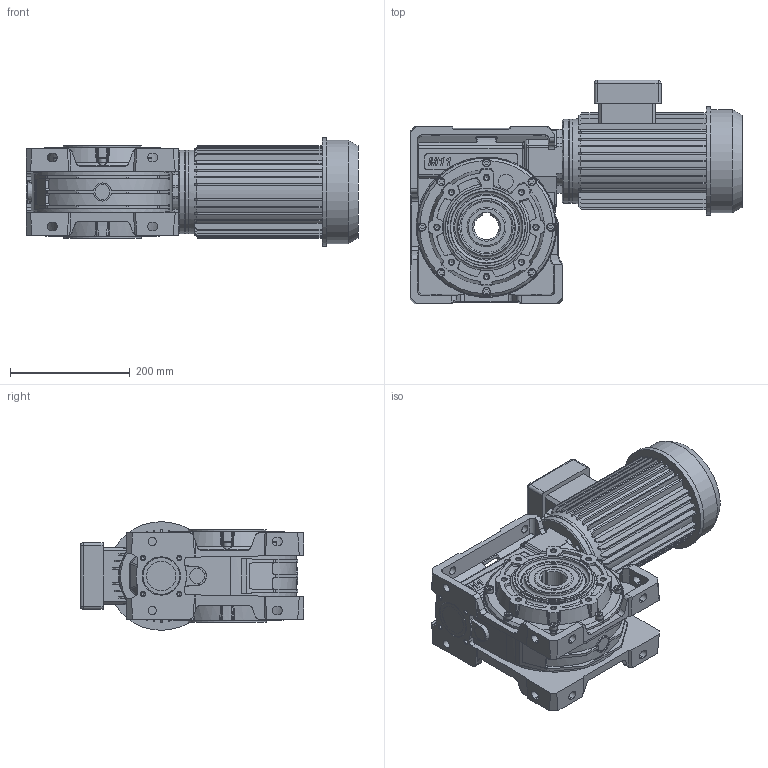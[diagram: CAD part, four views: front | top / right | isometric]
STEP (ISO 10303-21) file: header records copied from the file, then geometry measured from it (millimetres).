
FILE_DESCRIPTION( ( 'Unknown' ), '1' );
FILE_NAME( 'E:/services/configuratordownloads/customers/HYDROMEC/VQM/download/408BBBDB63ACEC1858AECA75196D8DA3/STEP/408BBBDB63ACEC1858AECA75196D8DA3.3d.stp', 'Unknown', ( 'Unknown' ), ( 'Unknown' ), 'PSStep 10.1', 'Unknown', ' ' );
FILE_SCHEMA( ( 'AUTOMOTIVE_DESIGN { 1 0 10303 214 1 1 1 1 }' ) );
Length unit declared in the file: millimetre
Products named in the file (1): M118800
Bounding box: 553.5 x 372.5 x 181 mm (x, y, z)
Volume: 13308627.7 mm3; surface area: 800546.1 mm2
Topology: 1 solids, 18 shells, 1462 faces, 3966 edges, 2600 vertices
Faces by surface type: plane 758, cylinder 306, cone 198, bspline 142, torus 28, extrusion 22, sphere 8
Full cylindrical faces by diameter (mm): 4.917 x12, 6.647 x8, 6.8 x8, 8 x8, 8.376 x32, 9 x8, 10 x4, 13 x8, 14 x6, 25 x4, 45 x1, 49 x1, 61 x1, 62 x2, 65 x2, 85 x2, 93.5 x1, 130 x2, 140 x2, 172 x1, 181 x1
Entity records: 64991 total; most frequent: CARTESIAN_POINT 18667, ORIENTED_EDGE 7280, DIRECTION 6728, EDGE_CURVE 3640, VERTEX_POINT 2511, AXIS2_PLACEMENT_3D 2383, VECTOR 1962, LINE 1940
